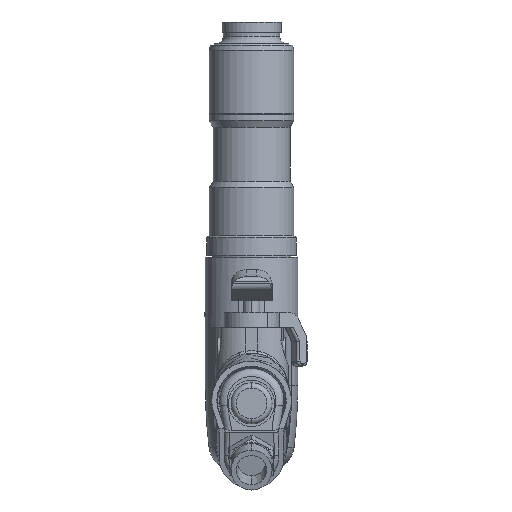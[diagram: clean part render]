
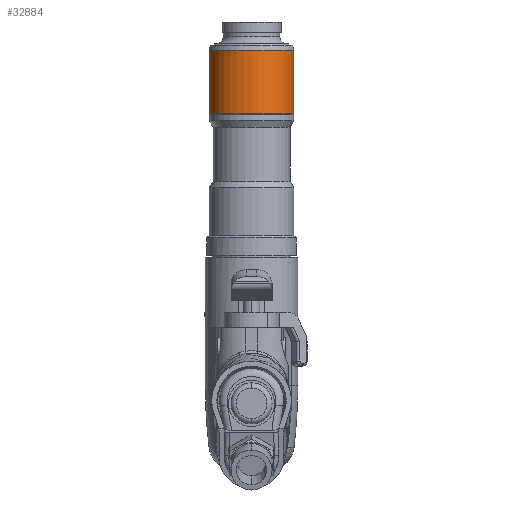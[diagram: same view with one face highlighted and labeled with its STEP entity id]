
A CAD part, front view. The second image highlights one B-rep face of the part: STEP entity #32884.
In plain terms, the highlighted cylindrical face has radius 16.5 mm (diameter 33 mm), a partial arc.
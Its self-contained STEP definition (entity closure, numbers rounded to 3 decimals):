
#32528 = ORIENTED_EDGE ( 'NONE', *, *, #32650, .T. ) ;
#32576 = VERTEX_POINT ( 'NONE', #85268 ) ;
#32579 = VERTEX_POINT ( 'NONE', #85485 ) ;
#32643 = EDGE_CURVE ( 'NONE', #32576, #32645, #85730, .T. ) ;
#32645 = VERTEX_POINT ( 'NONE', #85704 ) ;
#32648 = VERTEX_POINT ( 'NONE', #85683 ) ;
#32650 = EDGE_CURVE ( 'NONE', #32579, #32648, #85676, .T. ) ;
#32883 = EDGE_CURVE ( 'NONE', #32645, #32648, #86238, .T. ) ;
#32884 = ADVANCED_FACE ( 'NONE', ( #86229 ), #86227, .T. ) ;
#32886 = EDGE_LOOP ( 'NONE', ( #32887, #32888, #32528, #33047 ) ) ;
#32887 = ORIENTED_EDGE ( 'NONE', *, *, #32643, .F. ) ;
#32888 = ORIENTED_EDGE ( 'NONE', *, *, #32889, .T. ) ;
#32889 = EDGE_CURVE ( 'NONE', #32576, #32579, #86222, .T. ) ;
#33047 = ORIENTED_EDGE ( 'NONE', *, *, #32883, .F. ) ;
#85268 = CARTESIAN_POINT ( 'NONE',  ( -16.5, 0., -31.7 ) ) ;
#85485 = CARTESIAN_POINT ( 'NONE',  ( 16.5, 0., -31.7 ) ) ;
#85671 = DIRECTION ( 'NONE',  ( 0., 0., 1. ) ) ;
#85672 = VECTOR ( 'NONE', #85671, 1000. ) ;
#85674 = CARTESIAN_POINT ( 'NONE',  ( 16.5, 0., 12.52 ) ) ;
#85676 = LINE ( 'NONE', #85674, #85672 ) ;
#85683 = CARTESIAN_POINT ( 'NONE',  ( 16.5, 0., -7. ) ) ;
#85704 = CARTESIAN_POINT ( 'NONE',  ( -16.5, 0., -7. ) ) ;
#85707 = DIRECTION ( 'NONE',  ( 0., 0., 1. ) ) ;
#85710 = VECTOR ( 'NONE', #85707, 1000. ) ;
#85713 = CARTESIAN_POINT ( 'NONE',  ( -16.5, 0., 12.52 ) ) ;
#85730 = LINE ( 'NONE', #85713, #85710 ) ;
#86204 = DIRECTION ( 'NONE',  ( 1., 0., 0. ) ) ;
#86205 = DIRECTION ( 'NONE',  ( 0., 0., 1. ) ) ;
#86207 = CARTESIAN_POINT ( 'NONE',  ( 0., 0., -31.7 ) ) ;
#86209 = AXIS2_PLACEMENT_3D ( 'NONE', #86207, #86205, #86204 ) ;
#86214 = DIRECTION ( 'NONE',  ( 1., 0., 0. ) ) ;
#86217 = DIRECTION ( 'NONE',  ( 0., 0., 1. ) ) ;
#86219 = CARTESIAN_POINT ( 'NONE',  ( 0., 0., 12.52 ) ) ;
#86221 = AXIS2_PLACEMENT_3D ( 'NONE', #86219, #86217, #86214 ) ;
#86222 = CIRCLE ( 'NONE', #86209, 16.5 ) ;
#86227 = CYLINDRICAL_SURFACE ( 'NONE', #86221, 16.5 ) ;
#86229 = FACE_OUTER_BOUND ( 'NONE', #32886, .T. ) ;
#86231 = DIRECTION ( 'NONE',  ( 1., 0., 0. ) ) ;
#86233 = DIRECTION ( 'NONE',  ( 0., 0., 1. ) ) ;
#86235 = CARTESIAN_POINT ( 'NONE',  ( 0., 0., -7. ) ) ;
#86236 = AXIS2_PLACEMENT_3D ( 'NONE', #86235, #86233, #86231 ) ;
#86238 = CIRCLE ( 'NONE', #86236, 16.5 ) ;
